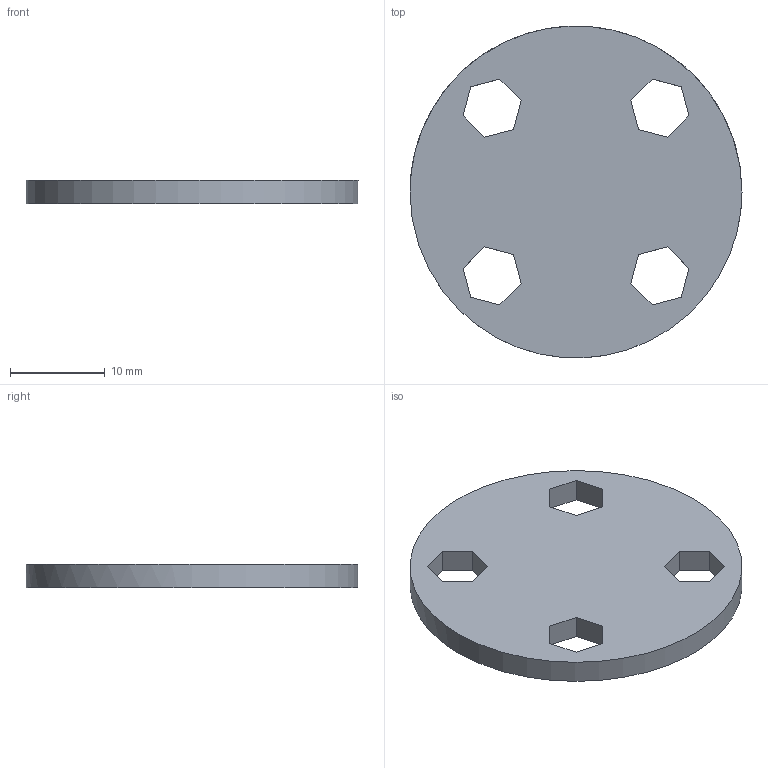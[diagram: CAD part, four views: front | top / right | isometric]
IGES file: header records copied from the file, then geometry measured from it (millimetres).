
Global section: file name: 8. Soporte tuercas; native system: Autodesk Inventor 2022; preprocessor: unknown; author: pined; date: 20220531.022646; units: millimetre
Bounding box: 35 x 34.98 x 2.46 mm (x, y, z)
Volume: 2111.8 mm3; surface area: 2173.1 mm2
Topology: 1 solids, 1 shells, 27 faces, 76 edges, 51 vertices
Faces by surface type: bspline 27
